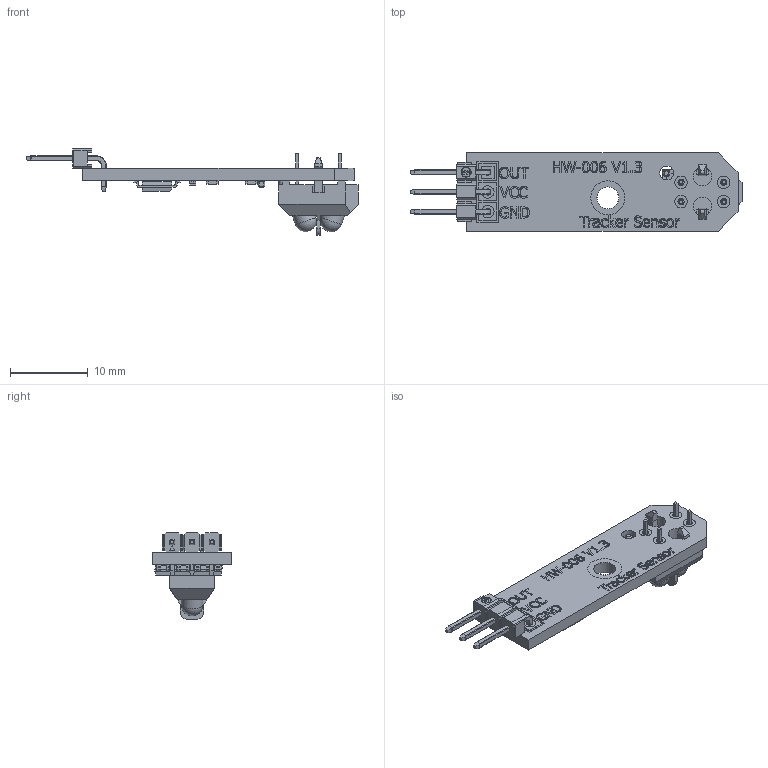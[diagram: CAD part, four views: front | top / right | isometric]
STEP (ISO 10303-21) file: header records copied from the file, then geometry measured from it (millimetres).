
FILE_DESCRIPTION(('FreeCAD Model'),'2;1');
FILE_NAME('Open CASCADE Shape Model','2024-01-20T12:28:15',(''),(''), 'Open CASCADE STEP processor 7.6','FreeCAD','Unknown');
FILE_SCHEMA(('AUTOMOTIVE_DESIGN { 1 0 10303 214 1 1 1 1 }'));
Length unit declared in the file: millimetre
Products named in the file (51): tcrt5000 Infrarot Line Tracking Modul; Board; TCRT5000 v1; Metal Contacts004; Metal Contacts005; TCRT5000 v002; LEDs002; LEDs003; Metal Contacts006; Metal Contacts007; 0603; ť󡬼1; ť󡬼2; 0603001; ť󡬼004; ť󡬼005; ť󡬼006; 0603002; ť󡬼007; ť󡬼008; ť󡬼009; C0603; ASSEMBLY; Fusion; Fillet; SO14 Narrow 3.9mm.step; Part 1; Part 2; Part 3; Part 4; Part 5; Part 6; Part 7; Part 8; Part 9; Part 10; Part 11; Part 12; Part 13; Part 14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
Assembly tree (51 placements, depth 3):
  tcrt5000 Infrarot Line Tracking Modul
    Board
    TCRT5000 v1
      Metal Contacts004
      Metal Contacts005
      TCRT5000 v002
      LEDs002
      LEDs003
      Metal Contacts006
      Metal Contacts007
    0603
      ť󡬼1
      ť󡬼2  x2
    0603001
      ť󡬼004
      ť󡬼005
      ť󡬼006
    0603002
      ť󡬼007
      ť󡬼008
      ť󡬼009
    C0603
    ASSEMBLY
      Fusion
      Fillet
    SO14 Narrow 3.9mm.step
      Part 1
      Part 2
      Part 3
      Part 4
      Part 5
      Part 6
      Part 7
      Part 8
      Part 9
      Part 10
      Part 11
      Part 12
      Part 13
      Part 14
      Part 15
    Pads
      Pad_001
      Pad_002
      Pad_003
      Pad_004
      Pad_005
      Pad_006
      Pad_007
      Pad_008
    DS1022_yellow_1x03p_100mil_TypeD_rev1.0
Bounding box: 42.82 x 10.1 x 11.18 mm (x, y, z)
Volume: 897.3 mm3; surface area: 1758.8 mm2
Topology: 51 solids, 51 shells, 1799 faces, 6218 edges, 8878 vertices
Faces by surface type: plane 931, extrusion 502, bspline 179, cylinder 170, sphere 14, cone 3
Full cylindrical faces by diameter (mm): 0.4 x1, 0.8 x14, 0.9 x1, 1.6 x6, 1.8 x1, 2.4 x2, 2.796 x2, 2.8 x2, 4.4 x1
Entity records: 90679 total; most frequent: CARTESIAN_POINT 34719, ORIENTED_EDGE 9496, DIRECTION 7438, EDGE_CURVE 4748, VECTOR 4274, LINE 3772, VERTEX_POINT 3130, B_SPLINE_CURVE_WITH_KNOTS 2460
